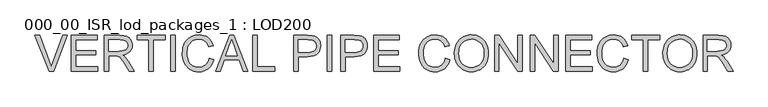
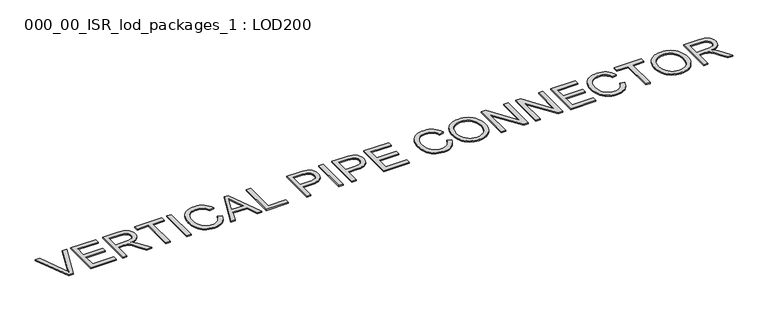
"""IFC4 building model written with IfcOpenShell, lengths in millimetres: proxy geometry, 000_00_ISR_lod_packages_1 : LOD200."""

import ifcopenshell
import ifcopenshell.guid

model = None  # the IFC model being written
_history = None  # IfcOwnerHistory: only IFC2X3 demands one
_inside = {}  # id of a spatial element -> (the spatial element, [elements in it])
_under = {}  # id of a project, library or spatial element -> (it, [spatial elements below it])
_declared = {}  # id of a project -> (the project, [libraries it declares])
_typed = {}  # id of a type object -> (the type object, [elements of that type])
_made_of = {}  # id of a material, layer set ... -> (it, [elements and type objects made of it])


def new_model(schema):
    """Start an empty IFC model of exactly this schema.

    Asked for "IFC4X3", IfcOpenShell would pick the latest addendum, in which some entities
    have other attributes; the version numbers below select the first issue.
    IFC2X3 requires an IfcOwnerHistory on every rooted entity: one is made here for all.
    """
    global model, _history
    if schema == "IFC4X3":
        model = ifcopenshell.file(schema_version=(4, 3, 0, 0))
    else:
        model = ifcopenshell.file(schema=schema)
    _inside.clear()
    _under.clear()
    _declared.clear()
    _typed.clear()
    _made_of.clear()
    _history = None
    if model.schema == "IFC2X3":
        org = make("IfcOrganization", Name="unknown")
        user = make(
            "IfcPersonAndOrganization",
            ThePerson=make("IfcPerson", FamilyName="unknown"),
            TheOrganization=org,
        )
        app = make(
            "IfcApplication",
            ApplicationDeveloper=org,
            Version="unknown",
            ApplicationFullName="unknown",
            ApplicationIdentifier="unknown",
        )
        _history = make(
            "IfcOwnerHistory",
            OwningUser=user,
            OwningApplication=app,
            ChangeAction="ADDED",
            CreationDate=0,
        )
    return model


def make(cls, **values):
    """One entity of the class cls with the attributes given. An attribute that is None is left unset."""
    return model.create_entity(
        cls, **{name: value for name, value in values.items() if value is not None}
    )


def rooted(cls, **values):
    """An entity with a GlobalId (a new one), such as an element, a storey or a relation."""
    return make(cls, GlobalId=ifcopenshell.guid.new(), OwnerHistory=_history, **values)


def si_unit(unit_type, name, prefix=None):
    """IfcSIUnit, for example si_unit("LENGTHUNIT", "METRE", prefix="MILLI")."""
    return make("IfcSIUnit", UnitType=unit_type, Prefix=prefix, Name=name)


def assignment(units):
    """IfcUnitAssignment: the units of a project."""
    return None if units is None else make("IfcUnitAssignment", Units=units)


def point(xyz):
    """IfcCartesianPoint."""
    return None if xyz is None else make("IfcCartesianPoint", Coordinates=xyz)


def direction(xyz):
    """IfcDirection."""
    return None if xyz is None else make("IfcDirection", DirectionRatios=xyz)


def frame(location, z_axis=None, x_axis=None):
    """IfcAxis2Placement3D, a coordinate frame: its origin and axes. An axis left out is left unset."""
    return make(
        "IfcAxis2Placement3D",
        Location=point(location),
        Axis=direction(z_axis),
        RefDirection=direction(x_axis),
    )


def origin():
    """The frame at (0, 0, 0) with its axes left unset."""
    return frame((0.0, 0.0, 0.0))


def origin_with_axes():
    """The frame at (0, 0, 0) with the z axis (0, 0, 1) and the x axis (1, 0, 0) written out."""
    return frame((0.0, 0.0, 0.0), z_axis=(0.0, 0.0, 1.0), x_axis=(1.0, 0.0, 0.0))


def place(relative_to, where):
    """IfcLocalPlacement: puts the frame where relative to a parent placement (None: the world)."""
    return make(
        "IfcLocalPlacement", PlacementRelTo=relative_to, RelativePlacement=where
    )


def context(
    kind, dimensions, precision=None, world=None, true_north=None, identifier=None
):
    """IfcGeometricRepresentationContext, for example the 3D "Model" context."""
    return make(
        "IfcGeometricRepresentationContext",
        ContextIdentifier=identifier,
        ContextType=kind,
        CoordinateSpaceDimension=dimensions,
        Precision=precision,
        WorldCoordinateSystem=world,
        TrueNorth=true_north,
    )


def project(units=None, contexts=None):
    """IfcProject with its units and contexts."""
    return rooted(
        "IfcProject",
        Name="project",
        RepresentationContexts=contexts,
        UnitsInContext=assignment(units),
    )


def spatial(cls, under=None, at=None, **own):
    """A site, building, storey or space (cls), placed at a placement, below another one or the project."""
    s = rooted(cls, ObjectPlacement=at, **own)
    if under is not None:
        _under.setdefault(under.id(), (under, []))[1].append(s)
    return s


def polyline(points):
    """IfcPolyline through the points."""
    return make("IfcPolyline", Points=[point(p) for p in points])


def outline(outer, holes=None, kind="AREA"):
    """IfcArbitraryClosedProfileDef: a profile drawn as a closed curve; with holes, ...WithVoids."""
    if holes is None:
        return make("IfcArbitraryClosedProfileDef", ProfileType=kind, OuterCurve=outer)
    return make(
        "IfcArbitraryProfileDefWithVoids",
        ProfileType=kind,
        OuterCurve=outer,
        InnerCurves=holes,
    )


def extrude(swept, where, along, depth):
    """IfcExtrudedAreaSolid: the profile swept, set in the frame where, extruded along a direction by depth."""
    return make(
        "IfcExtrudedAreaSolid",
        SweptArea=swept,
        Position=where,
        ExtrudedDirection=direction(along),
        Depth=depth,
    )


def shape(context_of_items, identifier, shape_type, items):
    """IfcShapeRepresentation: the items that make up one representation, for example the "Body"."""
    return make(
        "IfcShapeRepresentation",
        ContextOfItems=context_of_items,
        RepresentationIdentifier=identifier,
        RepresentationType=shape_type,
        Items=items,
    )


def source(mapping_origin, context_of_items, identifier, shape_type, items):
    """IfcRepresentationMap: a shape defined once, which mapped items show again and again."""
    return make(
        "IfcRepresentationMap",
        MappingOrigin=mapping_origin,
        MappedRepresentation=shape(context_of_items, identifier, shape_type, items),
    )


def transform(
    local_origin,
    x_axis=None,
    y_axis=None,
    z_axis=None,
    scale=None,
    scale2=None,
    scale3=None,
    uniform=True,
):
    """IfcCartesianTransformationOperator3D, or its non-uniform kind. x_axis, y_axis, z_axis: its Axis1, 2, 3."""
    if uniform:
        return make(
            "IfcCartesianTransformationOperator3D",
            Axis1=direction(x_axis),
            Axis2=direction(y_axis),
            LocalOrigin=point(local_origin),
            Scale=scale,
            Axis3=direction(z_axis),
        )
    return make(
        "IfcCartesianTransformationOperator3DnonUniform",
        Axis1=direction(x_axis),
        Axis2=direction(y_axis),
        LocalOrigin=point(local_origin),
        Scale=scale,
        Axis3=direction(z_axis),
        Scale2=scale2,
        Scale3=scale3,
    )


def mapped(mapping_source, mapping_target):
    """IfcMappedItem: shows the shape of a source again, moved by a transform."""
    return make(
        "IfcMappedItem", MappingSource=mapping_source, MappingTarget=mapping_target
    )


def made_of(thing, what):
    """Note that an element or type object is made of a material, layer set ...; save() writes the relation."""
    if what is not None:
        _made_of.setdefault(what.id(), (what, []))[1].append(thing)
    return thing


def element(
    cls,
    number,
    at=None,
    inside=None,
    cuts=None,
    type_object=None,
    material=None,
    context=None,
    identifier="Body",
    shape_type=None,
    held_by="IfcProductDefinitionShape",
    body=None,
    shapes=None,
    **own,
):
    """One element of the class cls, such as IfcWall. Its Tag is "e" and its number.

    at: its placement. inside: the storey or other place that contains it. cuts: it is an
    opening in that element (IfcRelVoidsElement). A single representation is given by context,
    identifier, shape_type and body (its items); several are given by shapes. held_by: the class
    of the entity that holds the representations. save() writes the other relations.
    """
    e = rooted(cls, Tag="e%d" % number, ObjectPlacement=at, **own)
    if body is not None:
        shapes = [shape(context, identifier, shape_type, body)]
    if shapes is not None:
        e.Representation = make(held_by, Representations=shapes)
    if inside is not None:
        _inside.setdefault(inside.id(), (inside, []))[1].append(e)
    if cuts is not None:
        rooted(
            "IfcRelVoidsElement", RelatingBuildingElement=cuts, RelatedOpeningElement=e
        )
    if type_object is not None:
        _typed.setdefault(type_object.id(), (type_object, []))[1].append(e)
    return made_of(e, material)


def aggregate(whole, parts):
    """IfcRelAggregates: a whole, such as a stair, and the parts it consists of."""
    return rooted("IfcRelAggregates", RelatingObject=whole, RelatedObjects=parts)


def save(model, path):
    """Write the relations noted so far, then the file.

    IfcRelAggregates (storeys below a building ...), IfcRelContainedInSpatialStructure (elements
    in a storey), IfcRelDefinesByType, IfcRelAssociatesMaterial and IfcRelDeclares: one each for
    every whole, place, type object, material and project.
    """
    for whole, parts in _under.values():
        aggregate(whole, parts)
    for where, things in _inside.values():
        rooted(
            "IfcRelContainedInSpatialStructure",
            RelatedElements=things,
            RelatingStructure=where,
        )
    for kind, things in _typed.values():
        rooted("IfcRelDefinesByType", RelatedObjects=things, RelatingType=kind)
    for what, things in _made_of.values():
        rooted("IfcRelAssociatesMaterial", RelatedObjects=things, RelatingMaterial=what)
    for by, libraries in _declared.values():
        rooted("IfcRelDeclares", RelatingContext=by, RelatedDefinitions=libraries)
    model.write(path)


def proxy_000_00_isr_lod_packages_1_lod200_2dca5619(model_context):
    return source(origin(), model_context, "Body", "SweptSolid", [
        extrude(outline(polyline([(823.5806792, 500.0), (505.4645712, 1299.3886983), (612.4140357, 1299.3886983), (825.3371485, 723.4619286), (868.4682281, 593.6783631), (911.013818, 723.4619286), (1124.5224206, 1299.3886983), (1231.4718851, 1299.3886983), (926.8220418, 500.0), (823.5806792, 500.0)])), origin_with_axes(), (0.0, 0.0, 1.0), 25.0),
        extrude(outline(polyline([(1324.3695952, 500.0), (1324.3695952, 1299.3886983), (1898.9302221, 1299.3886983), (1898.9302221, 1199.465111), (1424.2931825, 1199.465111), (1424.2931825, 962.1465912), (1873.9493253, 962.1465912), (1873.9493253, 862.2230039), (1424.2931825, 862.2230039), (1424.2931825, 599.9235873), (1911.4206705, 599.9235873), (1911.4206705, 500.0), (1324.3695952, 500.0)])), origin_with_axes(), (0.0, 0.0, 1.0), 25.0),
        extrude(outline(polyline([(2061.3060514, 500.0), (2061.3060514, 1299.3886983), (2405.7691991, 1299.3886983), (2498.3497688, 1293.9973134), (2535.1807346, 1287.2580822), (2565.7054877, 1277.8231585), (2591.6987939, 1264.966779), (2614.9354191, 1247.9631803), (2635.4153634, 1226.8123624), (2653.1386266, 1201.5143252), (2667.440434, 1173.4291129), (2677.6560107, 1143.9167692), (2683.7853567, 1112.9772942), (2685.828472, 1080.6106879), (2682.4436093, 1039.5532178), (2672.2890211, 1001.8623139), (2655.3647075, 967.5379762), (2631.6706684, 936.5802046), (2600.9019612, 909.9770132), (2562.7536434, 888.716416), (2517.225715, 872.7984129), (2464.318176, 862.2230039), (2497.2519755, 840.7062549), (2521.1106836, 819.4822508), (2562.0461766, 770.9353907), (2602.103435, 716.6312146), (2735.3999392, 500.0), (2619.2778016, 500.0), (2515.2557859, 665.6936047), (2440.1179322, 775.3753548), (2412.1851911, 807.3577335), (2387.3262713, 827.1911994), (2363.7847035, 838.8278086), (2339.8040184, 846.2196169), (2281.8405312, 849.7325555), (2161.2296387, 849.7325555), (2161.2296387, 500.0), (2061.3060514, 500.0)]), holes=[polyline([(2161.2296387, 949.6561428), (2384.8867306, 949.6561428), (2449.1198374, 953.1934768), (2498.959654, 963.8054789), (2536.47979, 982.1996158), (2551.3975815, 994.5802849), (2563.7538551, 1009.0833544), (2580.3671273, 1041.602432), (2585.9048847, 1076.902586), (2583.2640819, 1102.4567749), (2575.3416735, 1125.6446093), (2562.1376594, 1146.4660892), (2543.6520397, 1164.9212147), (2519.4578948, 1180.0341693), (2489.128305, 1190.829137), (2452.6632703, 1197.3061175), (2410.0627907, 1199.465111), (2161.2296387, 1199.465111), (2161.2296387, 949.6561428)])]), origin_with_axes(), (0.0, 0.0, 1.0), 25.0),
        extrude(outline(polyline([(3060.5419244, 500.0), (3060.5419244, 1199.465111), (2798.2425077, 1199.465111), (2798.2425077, 1299.3886983), (3422.7649283, 1299.3886983), (3422.7649283, 1199.465111), (3160.4655117, 1199.465111), (3160.4655117, 500.0), (3060.5419244, 500.0)])), origin_with_axes(), (0.0, 0.0, 1.0), 25.0),
        extrude(outline(polyline([(3547.6694124, 500.0), (3547.6694124, 1299.3886983), (3647.5929997, 1299.3886983), (3647.5929997, 500.0), (3547.6694124, 500.0)])), origin_with_axes(), (0.0, 0.0, 1.0), 25.0),
        extrude(outline(polyline([(4409.5103528, 784.1577014), (4509.4339401, 758.3961515), (4489.6614627, 696.2549509), (4463.3266208, 641.9568736), (4430.4294144, 595.5019198), (4390.9698435, 556.8900892), (4345.8383404, 526.536104), (4295.9253376, 504.854686), (4241.230835, 491.8458352), (4181.7548326, 487.5095516), (4120.8212046, 490.7907338), (4065.8522537, 500.6342806), (4016.8479797, 517.0401918), (3973.8083828, 540.0084676), (3936.1418744, 569.1975721), (3903.2568656, 604.2659697), (3875.1533567, 645.2136605), (3851.8313476, 692.0406443), (3833.5164957, 742.7221025), (3820.4344587, 795.2332162), (3812.5852365, 849.5739854), (3809.9688291, 905.7444101), (3812.9267722, 966.0132632), (3821.8006015, 1022.305665), (3836.590317, 1074.6216155), (3857.2959188, 1122.9611145), (3883.453894, 1166.5252127), (3914.6007299, 1204.5149603), (3950.7364266, 1236.9303574), (3991.8609841, 1263.771404), (4036.5777652, 1284.8185415), (4083.490133, 1299.8522111), (4132.5980874, 1308.8724128), (4183.9016284, 1311.8791468), (4241.0539683, 1307.9880793), (4293.4614015, 1296.3148771), (4341.123928, 1276.8595399), (4384.0415479, 1249.622068), (4421.5067942, 1215.3221256), (4452.8122003, 1174.6793775), (4477.9577662, 1127.6938235), (4496.9434917, 1074.3654637), (4397.0199044, 1050.5555464), (4381.2848669, 1089.8504483), (4362.3784264, 1123.4246273), (4340.300583, 1151.2780833), (4315.0513367, 1173.4108163), (4286.4843151, 1190.2741414), (4254.4531456, 1202.3193737), (4218.9578283, 1209.546513), (4179.9983633, 1211.9555595), (4135.1718028, 1209.2842624), (4094.1753213, 1201.2703712), (4057.0089186, 1187.9138858), (4023.6725949, 1169.2148063), (3994.5871708, 1146.0147742), (3970.1734672, 1119.155431), (3950.431484, 1088.6367768), (3935.3612213, 1054.4588115), (3924.2186192, 1018.1706435), (3916.2596176, 981.3213812), (3911.4842167, 943.9110245), (3909.8924164, 905.9395734), (3911.7769616, 858.2221572), (3917.4305971, 813.6273531), (3926.8533231, 772.1551611), (3940.0451395, 733.8055812), (3957.219506, 699.3409699), (3978.5898826, 669.5236836), (4004.1562692, 644.3537224), (4033.9186658, 623.8310862), (4066.4316446, 607.9069843), (4100.2497776, 596.5326257), (4135.3730649, 589.7080106), (4171.8015065, 587.4331389), (4215.2436276, 590.5313556), (4255.2094032, 599.8260057), (4291.6988333, 615.3170891), (4324.7119179, 637.004606), (4353.468004, 664.7909746), (4377.1864385, 698.5786134), (4395.8672214, 738.3675223), (4409.5103528, 784.1577014)])), origin_with_axes(), (0.0, 0.0, 1.0), 25.0),
        extrude(outline(polyline([(4553.7359993, 500.0), (4872.8279236, 1299.3886983), (4957.9191034, 1299.3886983), (5277.0110277, 500.0), (5171.4277059, 500.0), (5079.8961387, 749.8089682), (4750.6557251, 749.8089682), (4659.3193211, 500.0), (4553.7359993, 500.0)]), holes=[polyline([(4787.3464173, 849.7325555), (5043.4006097, 849.7325555), (4971.3853681, 1046.2619548), (4915.3735135, 1199.465111), (4865.6068831, 1063.4363213), (4787.3464173, 849.7325555)])]), origin_with_axes(), (0.0, 0.0, 1.0), 25.0),
        extrude(outline(polyline([(5383.7653289, 500.0), (5383.7653289, 1299.3886983), (5483.6889162, 1299.3886983), (5483.6889162, 599.9235873), (5883.3832654, 599.9235873), (5883.3832654, 500.0), (5383.7653289, 500.0)])), origin_with_axes(), (0.0, 0.0, 1.0), 25.0),
        extrude(outline(polyline([(6308.0585114, 500.0), (6308.0585114, 1299.3886983), (6604.3163347, 1299.3886983), (6673.3065458, 1297.4858566), (6723.7562476, 1291.7773313), (6777.0114212, 1277.554809), (6820.8499677, 1254.4035677), (6839.4575644, 1239.2174268), (6856.1501217, 1221.274605), (6883.7901179, 1177.1189182), (6894.2069567, 1151.6806075), (6901.6475558, 1125.0347241), (6907.6000351, 1068.1202395), (6903.5808918, 1019.0488782), (6891.5234619, 973.9051774), (6871.4277453, 932.6891372), (6843.2937422, 895.4007575), (6825.5994485, 878.842375), (6804.6697139, 864.4917768), (6780.5045385, 852.3489629), (6753.1039223, 842.4139334), (6688.5963672, 829.1672274), (6611.1470486, 824.7516587), (6407.9820987, 824.7516587), (6407.9820987, 500.0), (6308.0585114, 500.0)]), holes=[polyline([(6407.9820987, 924.675246), (6617.0019463, 924.675246), (6665.0608982, 926.9684143), (6705.6060647, 933.847919), (6738.6374459, 945.3137604), (6764.1550417, 961.3659382), (6783.1956569, 981.5775329), (6796.7960963, 1005.521625), (6804.95636, 1033.1982143), (6807.6764479, 1064.6073009), (6806.0724498, 1087.92931), (6801.2604558, 1109.4948498), (6793.2404657, 1129.3039204), (6782.0124796, 1147.3565216), (6768.174185, 1163.0671637), (6752.3232692, 1175.850357), (6734.4597324, 1185.7061015), (6714.5835745, 1192.6343971), (6676.0388314, 1197.7574326), (6614.6599872, 1199.465111), (6407.9820987, 1199.465111), (6407.9820987, 924.675246)])]), origin_with_axes(), (0.0, 0.0, 1.0), 25.0),
        extrude(outline(polyline([(7057.4854161, 500.0), (7057.4854161, 1299.3886983), (7157.4090034, 1299.3886983), (7157.4090034, 500.0), (7057.4854161, 500.0)])), origin_with_axes(), (0.0, 0.0, 1.0), 25.0),
        extrude(outline(polyline([(7357.256178, 500.0), (7357.256178, 1299.3886983), (7653.5140012, 1299.3886983), (7722.5042124, 1297.4858566), (7772.9539142, 1291.7773313), (7826.2090878, 1277.554809), (7870.0476342, 1254.4035677), (7888.655231, 1239.2174268), (7905.3477882, 1221.274605), (7932.9877844, 1177.1189182), (7943.4046232, 1151.6806075), (7950.8452224, 1125.0347241), (7956.7977017, 1068.1202395), (7952.7785584, 1019.0488782), (7940.7211285, 973.9051774), (7920.6254119, 932.6891372), (7892.4914087, 895.4007575), (7874.797115, 878.842375), (7853.8673805, 864.4917768), (7829.7022051, 852.3489629), (7802.3015888, 842.4139334), (7737.7940337, 829.1672274), (7660.3447152, 824.7516587), (7457.1797653, 824.7516587), (7457.1797653, 500.0), (7357.256178, 500.0)]), holes=[polyline([(7457.1797653, 924.675246), (7666.1996129, 924.675246), (7714.2585648, 926.9684143), (7754.8037313, 933.847919), (7787.8351125, 945.3137604), (7813.3527082, 961.3659382), (7832.3933235, 981.5775329), (7845.9937629, 1005.521625), (7854.1540265, 1033.1982143), (7856.8741144, 1064.6073009), (7855.2701164, 1087.92931), (7850.4581224, 1109.4948498), (7842.4381323, 1129.3039204), (7831.2101462, 1147.3565216), (7817.3718516, 1163.0671637), (7801.5209358, 1175.850357), (7783.657399, 1185.7061015), (7763.7812411, 1192.6343971), (7725.236498, 1197.7574326), (7663.8576538, 1199.465111), (7457.1797653, 1199.465111), (7457.1797653, 924.675246)])]), origin_with_axes(), (0.0, 0.0, 1.0), 25.0),
        extrude(outline(polyline([(8094.1926342, 500.0), (8094.1926342, 1299.3886983), (8668.7532612, 1299.3886983), (8668.7532612, 1199.465111), (8194.1162215, 1199.465111), (8194.1162215, 962.1465912), (8643.7723644, 962.1465912), (8643.7723644, 862.2230039), (8194.1162215, 862.2230039), (8194.1162215, 599.9235873), (8681.2437096, 599.9235873), (8681.2437096, 500.0), (8094.1926342, 500.0)])), origin_with_axes(), (0.0, 0.0, 1.0), 25.0),
        extrude(outline(polyline([(9705.4604793, 784.1577014), (9805.3840666, 758.3961515), (9785.6115892, 696.2549509), (9759.2767473, 641.9568736), (9726.3795409, 595.5019198), (9686.91997, 556.8900892), (9641.7884669, 526.536104), (9591.8754641, 504.854686), (9537.1809615, 491.8458352), (9477.7049591, 487.5095516), (9416.7713311, 490.7907338), (9361.8023802, 500.6342806), (9312.7981063, 517.0401918), (9269.7585094, 540.0084676), (9232.0920009, 569.1975721), (9199.2069922, 604.2659697), (9171.1034832, 645.2136605), (9147.7814741, 692.0406443), (9129.4666222, 742.7221025), (9116.3845852, 795.2332162), (9108.535363, 849.5739854), (9105.9189556, 905.7444101), (9108.8768987, 966.0132632), (9117.750728, 1022.305665), (9132.5404435, 1074.6216155), (9153.2460453, 1122.9611145), (9179.4040205, 1166.5252127), (9210.5508564, 1204.5149603), (9246.6865531, 1236.9303574), (9287.8111106, 1263.771404), (9332.5278917, 1284.8185415), (9379.4402595, 1299.8522111), (9428.5482139, 1308.8724128), (9479.8517549, 1311.8791468), (9537.0040948, 1307.9880793), (9589.411528, 1296.3148771), (9637.0740545, 1276.8595399), (9679.9916744, 1249.622068), (9717.4569208, 1215.3221256), (9748.7623269, 1174.6793775), (9773.9078927, 1127.6938235), (9792.8936182, 1074.3654637), (9692.9700309, 1050.5555464), (9677.2349934, 1089.8504483), (9658.3285529, 1123.4246273), (9636.2507095, 1151.2780833), (9611.0014632, 1173.4108163), (9582.4344416, 1190.2741414), (9550.4032721, 1202.3193737), (9514.9079548, 1209.546513), (9475.9484898, 1211.9555595), (9431.1219293, 1209.2842624), (9390.1254478, 1201.2703712), (9352.9590451, 1187.9138858), (9319.6227214, 1169.2148063), (9290.5372973, 1146.0147742), (9266.1235937, 1119.155431), (9246.3816106, 1088.6367768), (9231.3113478, 1054.4588115), (9220.1687457, 1018.1706435), (9212.2097441, 981.3213812), (9207.4343432, 943.9110245), (9205.8425429, 905.9395734), (9207.7270881, 858.2221572), (9213.3807237, 813.6273531), (9222.8034496, 772.1551611), (9235.995266, 733.8055812), (9253.1696326, 699.3409699), (9274.5400091, 669.5236836), (9300.1063957, 644.3537224), (9329.8687923, 623.8310862), (9362.3817711, 607.9069843), (9396.1999041, 596.5326257), (9431.3231914, 589.7080106), (9467.751633, 587.4331389), (9511.1937541, 590.5313556), (9551.1595297, 599.8260057), (9587.6489598, 615.3170891), (9620.6620444, 637.004606), (9649.4181305, 664.7909746), (9673.136565, 698.5786134), (9691.817348, 738.3675223), (9705.4604793, 784.1577014)])), origin_with_axes(), (0.0, 0.0, 1.0), 25.0),
        extrude(outline(polyline([(9905.3076539, 889.1555333), (9906.9726405, 937.3822036), (9911.9676001, 982.9192803), (9920.2925327, 1025.7667634), (9931.9474384, 1065.9246528), (9946.9323172, 1103.3929486), (9965.2471691, 1138.1716508), (9986.891994, 1170.2607594), (10011.8667919, 1199.6602743), (10039.4732444, 1225.9615725), (10069.013033, 1248.756031), (10100.4861575, 1268.0436497), (10133.892618, 1283.8244286), (10169.2324146, 1296.0983678), (10206.5055471, 1304.8654672), (10245.7120157, 1310.1257269), (10286.8518203, 1311.8791468), (10340.6314951, 1308.5857668), (10391.7032798, 1298.7056269), (10440.0671743, 1282.2387272), (10485.7231786, 1259.1850675), (10527.3905338, 1230.239917), (10563.7884811, 1196.0985449), (10594.9170205, 1156.760951), (10620.776152, 1112.2271354), (10641.0975261, 1063.5095075), (10655.6127933, 1011.6204767), (10664.3219536, 956.560043), (10667.225007, 898.3282064), (10664.1694823, 839.3279144), (10655.0029081, 783.5234208), (10639.7252844, 730.9147255), (10618.3366113, 681.5018285), (10591.3430934, 636.5898841), (10559.2509354, 597.4840466), (10522.0601374, 564.184316), (10479.7706992, 536.6906922), (10434.0476076, 515.1739432), (10386.5558489, 499.8048367), (10337.2954232, 490.5833729), (10286.2663305, 487.5095516), (10231.5474325, 490.906612), (10179.8047741, 501.0977933), (10131.0383554, 518.0830955), (10085.2481764, 541.8625185), (10043.6296119, 571.5151358), (10007.378037, 606.1200207), (9976.4934517, 645.6771732), (9950.9758559, 690.1865934), (9930.9960176, 737.8613176), (9916.7247044, 786.9143824), (9908.1619166, 837.3457876), (9905.3076539, 889.1555333)]), holes=[polyline([(10005.2312412, 888.179717), (10010.2262008, 821.9339892), (10025.2110796, 763.1288605), (10050.1858776, 711.7643309), (10085.1505947, 667.8404005), (10127.6534927, 632.6622236), (10175.242833, 607.5349543), (10227.9186157, 592.4585927), (10285.6808407, 587.4331389), (10344.4310798, 592.5073835), (10397.7289453, 607.7301176), (10445.5744374, 633.1013409), (10487.967556, 668.6210536), (10506.5614303, 689.9822819), (10522.6761214, 713.4720094), (10547.4679538, 766.8369624), (10562.3430533, 828.7159123), (10567.3014197, 899.1088594), (10565.1790193, 944.8380499), (10558.8118181, 987.5666054), (10548.199816, 1027.2945258), (10533.3430131, 1064.0218111), (10514.4060784, 1097.266652), (10491.5536808, 1126.5472394), (10464.7858205, 1151.863573), (10434.1024972, 1173.2156531), (10400.4551321, 1190.1643621), (10364.7951458, 1202.2705829), (10327.1225384, 1209.5343153), (10287.43731, 1211.9555595), (10231.6816072, 1207.2899379), (10179.9511465, 1193.2930731), (10132.245928, 1169.9649651), (10088.5659517, 1137.3056139), (10069.0343789, 1117.0833461), (10052.1070159, 1093.7415157), (10037.7838625, 1067.2801226), (10026.0649188, 1037.6991669), (10016.9501849, 1004.9986484), (10010.4396606, 969.1785673), (10005.2312412, 888.179717)])]), origin_with_axes(), (0.0, 0.0, 1.0), 25.0),
        extrude(outline(polyline([(10804.6199396, 500.0), (10804.6199396, 1299.3886983), (10911.5694041, 1299.3886983), (11329.2187729, 666.0839312), (11329.2187729, 1299.3886983), (11429.1423601, 1299.3886983), (11429.1423601, 500.0), (11322.1928956, 500.0), (10904.5435269, 1133.4999304), (10904.5435269, 500.0), (10804.6199396, 500.0)])), origin_with_axes(), (0.0, 0.0, 1.0), 25.0),
        extrude(outline(polyline([(11604.0086379, 500.0), (11604.0086379, 1299.3886983), (11710.9581024, 1299.3886983), (12128.6074712, 666.0839312), (12128.6074712, 1299.3886983), (12228.5310585, 1299.3886983), (12228.5310585, 500.0), (12121.581594, 500.0), (11703.9322252, 1133.4999304), (11703.9322252, 500.0), (11604.0086379, 500.0)])), origin_with_axes(), (0.0, 0.0, 1.0), 25.0),
        extrude(outline(polyline([(12403.3973362, 500.0), (12403.3973362, 1299.3886983), (12977.9579632, 1299.3886983), (12977.9579632, 1199.465111), (12503.3209235, 1199.465111), (12503.3209235, 962.1465912), (12952.9770664, 962.1465912), (12952.9770664, 862.2230039), (12503.3209235, 862.2230039), (12503.3209235, 599.9235873), (12990.4484116, 599.9235873), (12990.4484116, 500.0), (12403.3973362, 500.0)])), origin_with_axes(), (0.0, 0.0, 1.0), 25.0),
        extrude(outline(polyline([(13702.4039711, 784.1577014), (13802.3275583, 758.3961515), (13782.5550809, 696.2549509), (13756.220239, 641.9568736), (13723.3230326, 595.5019198), (13683.8634617, 556.8900892), (13638.7319586, 526.536104), (13588.8189558, 504.854686), (13534.1244532, 491.8458352), (13474.6484508, 487.5095516), (13413.7148228, 490.7907338), (13358.7458719, 500.6342806), (13309.741598, 517.0401918), (13266.7020011, 540.0084676), (13229.0354926, 569.1975721), (13196.1504839, 604.2659697), (13168.0469749, 645.2136605), (13144.7249658, 692.0406443), (13126.410114, 742.7221025), (13113.3280769, 795.2332162), (13105.4788547, 849.5739854), (13102.8624473, 905.7444101), (13105.8203904, 966.0132632), (13114.6942197, 1022.305665), (13129.4839352, 1074.6216155), (13150.189537, 1122.9611145), (13176.3475122, 1166.5252127), (13207.4943482, 1204.5149603), (13243.6300449, 1236.9303574), (13284.7546023, 1263.771404), (13329.4713834, 1284.8185415), (13376.3837512, 1299.8522111), (13425.4917056, 1308.8724128), (13476.7952466, 1311.8791468), (13533.9475865, 1307.9880793), (13586.3550197, 1296.3148771), (13634.0175462, 1276.8595399), (13676.9351661, 1249.622068), (13714.4004125, 1215.3221256), (13745.7058186, 1174.6793775), (13770.8513844, 1127.6938235), (13789.8371099, 1074.3654637), (13689.9135226, 1050.5555464), (13674.1784851, 1089.8504483), (13655.2720446, 1123.4246273), (13633.1942012, 1151.2780833), (13607.9449549, 1173.4108163), (13579.3779333, 1190.2741414), (13547.3467638, 1202.3193737), (13511.8514466, 1209.546513), (13472.8919815, 1211.9555595), (13428.065421, 1209.2842624), (13387.0689395, 1201.2703712), (13349.9025368, 1187.9138858), (13316.5662131, 1169.2148063), (13287.480789, 1146.0147742), (13263.0670854, 1119.155431), (13243.3251023, 1088.6367768), (13228.2548396, 1054.4588115), (13217.1122374, 1018.1706435), (13209.1532358, 981.3213812), (13204.3778349, 943.9110245), (13202.7860346, 905.9395734), (13204.6705798, 858.2221572), (13210.3242154, 813.6273531), (13219.7469413, 772.1551611), (13232.9387577, 733.8055812), (13250.1131243, 699.3409699), (13271.4835009, 669.5236836), (13297.0498874, 644.3537224), (13326.8122841, 623.8310862), (13359.3252628, 607.9069843), (13393.1433958, 596.5326257), (13428.2666831, 589.7080106), (13464.6951247, 587.4331389), (13508.1372458, 590.5313556), (13548.1030214, 599.8260057), (13584.5924515, 615.3170891), (13617.6055361, 637.004606), (13646.3616222, 664.7909746), (13670.0800567, 698.5786134), (13688.7608397, 738.3675223), (13702.4039711, 784.1577014)])), origin_with_axes(), (0.0, 0.0, 1.0), 25.0),
        extrude(outline(polyline([(14576.7353599, 889.1555333), (14578.4003464, 937.3822036), (14583.395306, 982.9192803), (14591.7202386, 1025.7667634), (14603.3751444, 1065.9246528), (14618.3600232, 1103.3929486), (14636.674875, 1138.1716508), (14658.3196999, 1170.2607594), (14683.2944979, 1199.6602743), (14710.9009504, 1225.9615725), (14740.4407389, 1248.756031), (14771.9138634, 1268.0436497), (14805.320324, 1283.8244286), (14840.6601205, 1296.0983678), (14877.9332531, 1304.8654672), (14917.1397216, 1310.1257269), (14958.2795262, 1311.8791468), (15012.059201, 1308.5857668), (15063.1309857, 1298.7056269), (15111.4948802, 1282.2387272), (15157.1508845, 1259.1850675), (15198.8182397, 1230.239917), (15235.2161871, 1196.0985449), (15266.3447265, 1156.760951), (15292.2038579, 1112.2271354), (15312.525232, 1063.5095075), (15327.0404992, 1011.6204767), (15335.7496595, 956.560043), (15338.652713, 898.3282064), (15335.5971882, 839.3279144), (15326.430614, 783.5234208), (15311.1529904, 730.9147255), (15289.7643172, 681.5018285), (15262.7707993, 636.5898841), (15230.6786414, 597.4840466), (15193.4878433, 564.184316), (15151.1984052, 536.6906922), (15105.4753135, 515.1739432), (15057.9835548, 499.8048367), (15008.7231291, 490.5833729), (14957.6940364, 487.5095516), (14902.9751384, 490.906612), (14851.23248, 501.0977933), (14802.4660613, 518.0830955), (14756.6758823, 541.8625185), (14715.0573179, 571.5151358), (14678.805743, 606.1200207), (14647.9211577, 645.6771732), (14622.4035619, 690.1865934), (14602.4237235, 737.8613176), (14588.1524104, 786.9143824), (14579.5896225, 837.3457876), (14576.7353599, 889.1555333)]), holes=[polyline([(14676.6589472, 888.179717), (14681.6539068, 821.9339892), (14696.6387855, 763.1288605), (14721.6135835, 711.7643309), (14756.5783007, 667.8404005), (14799.0811986, 632.6622236), (14846.6705389, 607.5349543), (14899.3463216, 592.4585927), (14957.1085467, 587.4331389), (15015.8587857, 592.5073835), (15069.1566512, 607.7301176), (15117.0021433, 633.1013409), (15159.3952619, 668.6210536), (15177.9891363, 689.9822819), (15194.1038273, 713.4720094), (15218.8956597, 766.8369624), (15233.7707592, 828.7159123), (15238.7291257, 899.1088594), (15236.6067253, 944.8380499), (15230.239524, 987.5666054), (15219.627522, 1027.2945258), (15204.7707191, 1064.0218111), (15185.8337843, 1097.266652), (15162.9813868, 1126.5472394), (15136.2135264, 1151.863573), (15105.5302032, 1173.2156531), (15071.882838, 1190.1643621), (15036.2228517, 1202.2705829), (14998.5502444, 1209.5343153), (14958.865016, 1211.9555595), (14903.1093131, 1207.2899379), (14851.3788525, 1193.2930731), (14803.673634, 1169.9649651), (14759.9936577, 1137.3056139), (14740.4620849, 1117.0833461), (14723.5347218, 1093.7415157), (14709.2115684, 1067.2801226), (14697.4926248, 1037.6991669), (14688.3778908, 1004.9986484), (14681.8673666, 969.1785673), (14676.6589472, 888.179717)])]), origin_with_axes(), (0.0, 0.0, 1.0), 25.0),
        extrude(outline(polyline([(15476.0476455, 500.0), (15476.0476455, 1299.3886983), (15820.5107931, 1299.3886983), (15913.0913629, 1293.9973134), (15949.9223287, 1287.2580822), (15980.4470817, 1277.8231585), (16006.440388, 1264.966779), (16029.6770132, 1247.9631803), (16050.1569574, 1226.8123624), (16067.8802206, 1201.5143252), (16082.182028, 1173.4291129), (16092.3976047, 1143.9167692), (16098.5269507, 1112.9772942), (16100.5700661, 1080.6106879), (16097.1852034, 1039.5532178), (16087.0306152, 1001.8623139), (16070.1063015, 967.5379762), (16046.4122624, 936.5802046), (16015.6435553, 909.9770132), (15977.4952375, 888.716416), (15931.9673091, 872.7984129), (15879.05977, 862.2230039), (15911.9935696, 840.7062549), (15935.8522777, 819.4822508), (15976.7877707, 770.9353907), (16016.8450291, 716.6312146), (16150.1415332, 500.0), (16034.0193956, 500.0), (15929.99738, 665.6936047), (15854.8595262, 775.3753548), (15826.9267852, 807.3577335), (15802.0678654, 827.1911994), (15778.5262976, 838.8278086), (15754.5456124, 846.2196169), (15696.5821253, 849.7325555), (15575.9712328, 849.7325555), (15575.9712328, 500.0), (15476.0476455, 500.0)]), holes=[polyline([(15575.9712328, 949.6561428), (15799.6283247, 949.6561428), (15863.8614314, 953.1934768), (15913.701248, 963.8054789), (15951.2213841, 982.1996158), (15966.1391755, 994.5802849), (15978.4954492, 1009.0833544), (15995.1087214, 1041.602432), (16000.6464788, 1076.902586), (15998.005676, 1102.4567749), (15990.0832675, 1125.6446093), (15976.8792535, 1146.4660892), (15958.3936338, 1164.9212147), (15934.1994888, 1180.0341693), (15903.869899, 1190.829137), (15867.4048643, 1197.3061175), (15824.8043847, 1199.465111), (15575.9712328, 1199.465111), (15575.9712328, 949.6561428)])]), origin_with_axes(), (0.0, 0.0, 1.0), 25.0),
        extrude(outline(polyline([(14139.5696655, 500.0), (14139.5696655, 1199.465111), (13877.2702488, 1199.465111), (13877.2702488, 1299.3886983), (14501.7926694, 1299.3886983), (14501.7926694, 1199.465111), (14239.4932528, 1199.465111), (14239.4932528, 500.0), (14139.5696655, 500.0)])), origin_with_axes(), (0.0, 0.0, 1.0), 25.0),
    ])


if __name__ == "__main__":
    model = new_model("IFC4")
    model_context = context("Model", 3, world=origin())
    ifc_project = project(units=[si_unit("LENGTHUNIT", "METRE", prefix="MILLI")], contexts=[model_context])
    site = spatial("IfcSite", under=ifc_project)
    building = spatial("IfcBuilding", under=site)
    placement = place(None, origin())
    proxy_000_00_isr_lod_packages_1_lod200_shape = proxy_000_00_isr_lod_packages_1_lod200_2dca5619(model_context)
    element("IfcBuildingElementProxy", 1, Name="000_00_ISR_lod_packages_1 : LOD200", ObjectType="000_00_ISR_lod_packages_1 : LOD200", at=placement, inside=building, context=model_context, shape_type="MappedRepresentation", body=[
        mapped(proxy_000_00_isr_lod_packages_1_lod200_shape, transform((0.0, 0.0, 0.0), x_axis=(1.0, 0.0, 0.0), y_axis=(0.0, 1.0, 0.0), z_axis=(0.0, 0.0, 1.0))),
    ])
    save(model, "model.ifc")
